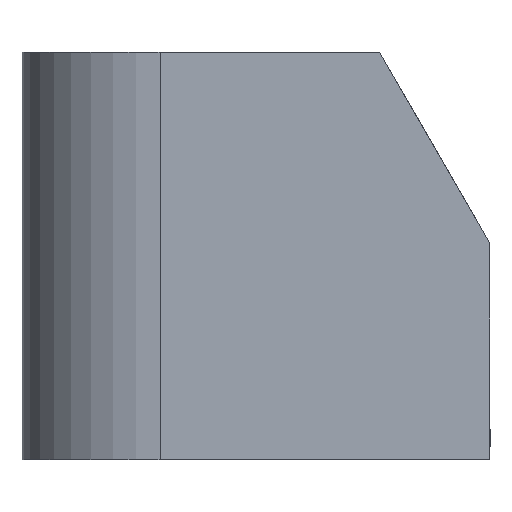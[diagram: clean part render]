
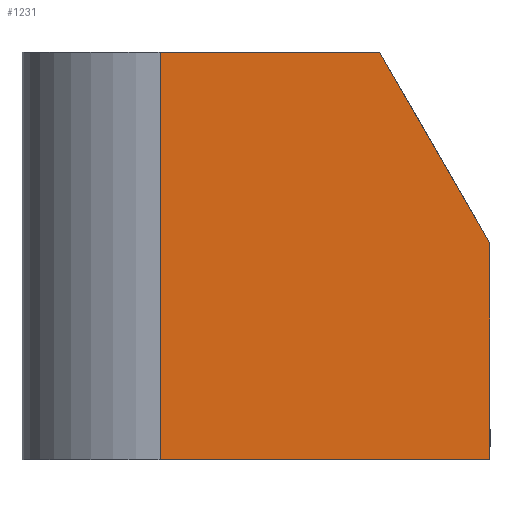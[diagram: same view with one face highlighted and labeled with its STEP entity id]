
A CAD part, front view. The second image highlights one B-rep face of the part: STEP entity #1231.
In plain terms, the highlighted planar face has unit normal (0, -1, 0).
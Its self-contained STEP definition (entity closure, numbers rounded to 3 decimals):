
#1 = LINE ( 'NONE', #2153, #734 ) ;
#12 = ORIENTED_EDGE ( 'NONE', *, *, #953, .F. ) ;
#71 = VERTEX_POINT ( 'NONE', #437 ) ;
#113 = CARTESIAN_POINT ( 'NONE',  ( -26.1, -42., 13.144 ) ) ;
#146 = PLANE ( 'NONE',  #1786 ) ;
#197 = CARTESIAN_POINT ( 'NONE',  ( -50., -42., 27. ) ) ;
#333 = VECTOR ( 'NONE', #1454, 1000. ) ;
#373 = LINE ( 'NONE', #197, #333 ) ;
#437 = CARTESIAN_POINT ( 'NONE',  ( -50., -42., -2.5 ) ) ;
#448 = LINE ( 'NONE', #1383, #632 ) ;
#501 = ORIENTED_EDGE ( 'NONE', *, *, #1136, .F. ) ;
#632 = VECTOR ( 'NONE', #659, 1000. ) ;
#633 = LINE ( 'NONE', #113, #1300 ) ;
#642 = EDGE_CURVE ( 'NONE', #1945, #71, #1, .T. ) ;
#657 = EDGE_LOOP ( 'NONE', ( #12, #1532, #501, #1737, #732 ) ) ;
#659 = DIRECTION ( 'NONE',  ( 0., 0., -1. ) ) ;
#732 = ORIENTED_EDGE ( 'NONE', *, *, #642, .F. ) ;
#734 = VECTOR ( 'NONE', #1431, 1000. ) ;
#758 = CARTESIAN_POINT ( 'NONE',  ( -34.1, -42., 27. ) ) ;
#839 = VERTEX_POINT ( 'NONE', #1847 ) ;
#953 = EDGE_CURVE ( 'NONE', #2039, #1945, #448, .T. ) ;
#987 = DIRECTION ( 'NONE',  ( -0.5, 0., 0.866 ) ) ;
#1002 = CARTESIAN_POINT ( 'NONE',  ( -60., -42., 27. ) ) ;
#1093 = EDGE_CURVE ( 'NONE', #2039, #1809, #633, .T. ) ;
#1136 = EDGE_CURVE ( 'NONE', #839, #1809, #2231, .T. ) ;
#1231 = ADVANCED_FACE ( 'NONE', ( #1738 ), #146, .F. ) ;
#1300 = VECTOR ( 'NONE', #987, 1000. ) ;
#1383 = CARTESIAN_POINT ( 'NONE',  ( -26.1, -42., 27. ) ) ;
#1403 = CARTESIAN_POINT ( 'NONE',  ( -60., -42., 27. ) ) ;
#1430 = CARTESIAN_POINT ( 'NONE',  ( -26.1, -42., 13.144 ) ) ;
#1431 = DIRECTION ( 'NONE',  ( -1., 0., 0. ) ) ;
#1454 = DIRECTION ( 'NONE',  ( 0., 0., -1. ) ) ;
#1490 = VECTOR ( 'NONE', #1716, 1000. ) ;
#1532 = ORIENTED_EDGE ( 'NONE', *, *, #1093, .T. ) ;
#1716 = DIRECTION ( 'NONE',  ( 1., 0., 0. ) ) ;
#1737 = ORIENTED_EDGE ( 'NONE', *, *, #2004, .T. ) ;
#1738 = FACE_OUTER_BOUND ( 'NONE', #657, .T. ) ;
#1786 = AXIS2_PLACEMENT_3D ( 'NONE', #1403, #2116, #1942 ) ;
#1809 = VERTEX_POINT ( 'NONE', #758 ) ;
#1847 = CARTESIAN_POINT ( 'NONE',  ( -50., -42., 27. ) ) ;
#1942 = DIRECTION ( 'NONE',  ( 0., 0., 1. ) ) ;
#1945 = VERTEX_POINT ( 'NONE', #2258 ) ;
#2004 = EDGE_CURVE ( 'NONE', #839, #71, #373, .T. ) ;
#2039 = VERTEX_POINT ( 'NONE', #1430 ) ;
#2116 = DIRECTION ( 'NONE',  ( 0., 1., 0. ) ) ;
#2153 = CARTESIAN_POINT ( 'NONE',  ( 60., -42., -2.5 ) ) ;
#2231 = LINE ( 'NONE', #1002, #1490 ) ;
#2258 = CARTESIAN_POINT ( 'NONE',  ( -26.1, -42., -2.5 ) ) ;
